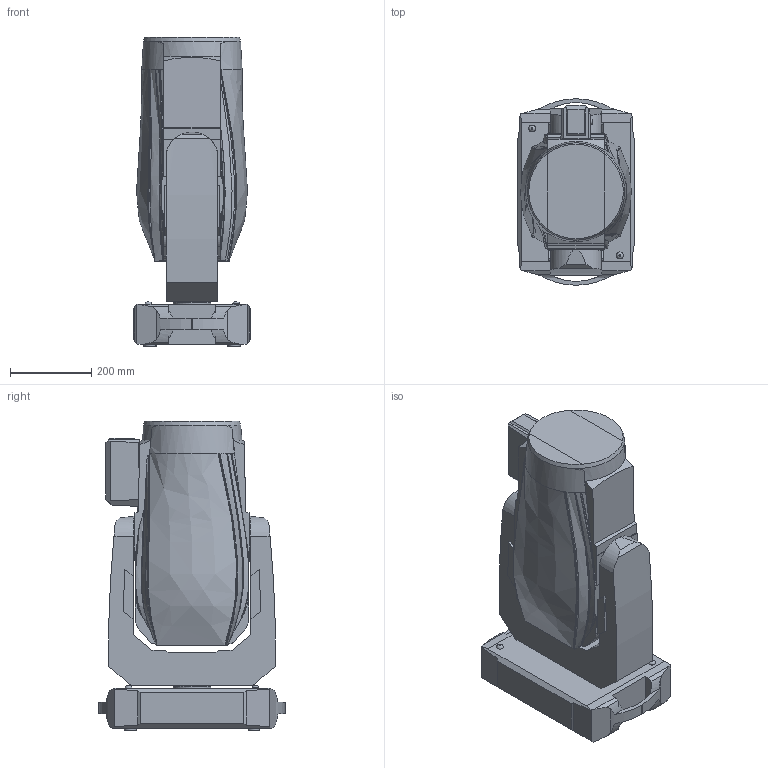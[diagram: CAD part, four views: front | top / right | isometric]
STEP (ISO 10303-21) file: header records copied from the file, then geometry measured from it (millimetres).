
FILE_DESCRIPTION(/* description */ ('Unknown'),/* implementation_level */ '2;1');
FILE_NAME(/* name */ '3D-iEsprite LT FoSp',/* time_stamp */ '2025-01-30T15:44:26+01:00',/* author */ ('Unknown'),/* organization */ ('Unknown'),/* preprocessor_version */ 'ST-DEVELOPER v19.4',/* originating_system */ 'Solid Edge',/* authorisation */ 'Unknown');
FILE_SCHEMA (('AUTOMOTIVE_DESIGN {1 0 10303 214 3 1 1}'));
Length unit declared in the file: millimetre
Products named in the file (5): 3D-iEsprite LT FoSp; iEsprite LT-Base; iEsprite LT-Arm; iEsprite LT-Head; iForte LT-Camera
Assembly tree (4 placements, depth 2):
  3D-iEsprite LT FoSp
    iEsprite LT-Base
    iEsprite LT-Arm
    iEsprite LT-Head
    iForte LT-Camera
Bounding box: 289.15 x 458.01 x 760.39 mm (x, y, z)
Volume: 52882396.9 mm3; surface area: 1481841.9 mm2
Topology: 4 solids, 4 shells, 289 faces, 806 edges, 537 vertices
Faces by surface type: plane 147, bspline 79, cylinder 56, cone 5, torus 2
Full cylindrical faces by diameter (mm): 13 x2, 17 x1, 27.533 x2, 30.265 x2, 49.847 x2, 49.99 x1, 91.8 x1, 93 x1
Entity records: 11464 total; most frequent: CARTESIAN_POINT 4589, ORIENTED_EDGE 1560, DIRECTION 1128, EDGE_CURVE 780, VERTEX_POINT 526, LINE 376, VECTOR 376, AXIS2_PLACEMENT_3D 376
